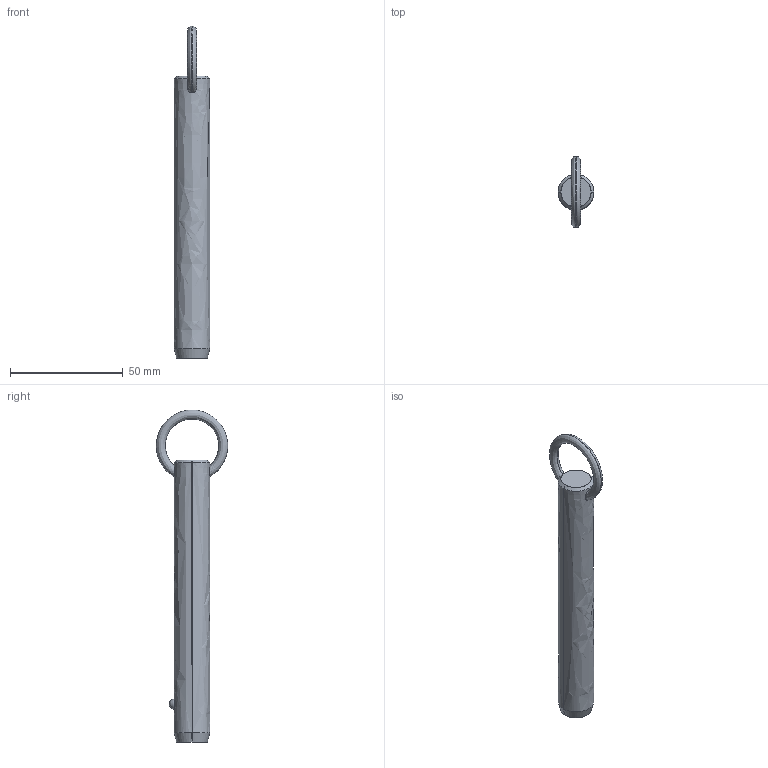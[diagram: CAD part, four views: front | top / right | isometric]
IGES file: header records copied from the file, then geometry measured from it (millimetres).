
Start section: SolidWorks IGES file using analytic representation for surfaces
Global section: file name: C:\Users\liam_\OneDrive\Documents\WORK\Work for WixRoyd\Job Files\J-00019 - Matt Davis CAD Checking\04. CAD Drawings\automotion20190605\P1250.2_v2\P1250.2_v2_20190729_IGES\P1250.062-380.igs; native system: SolidWorks 2017; preprocessor: SolidWorks 2017; author: liam_; date: 190729.233621; units: millimetre
Bounding box: 15.8 x 31.69 x 147.19 mm (x, y, z)
Surface area: 7378.5 mm2 (no closed solid volume)
Topology: 0 solids, 0 shells, 12 faces, 292 edges, 290 vertices
Faces by surface type: revolution 8, bspline 4
